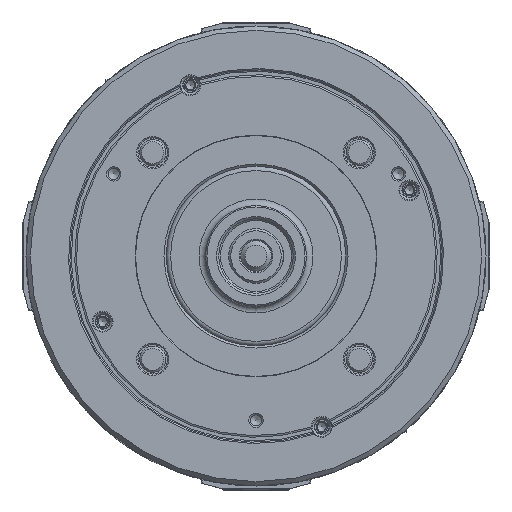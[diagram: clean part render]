
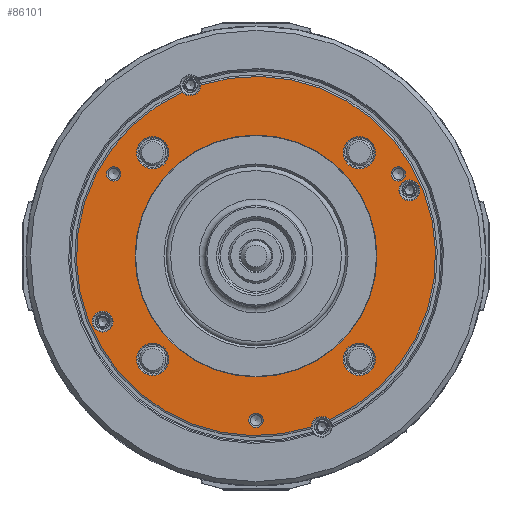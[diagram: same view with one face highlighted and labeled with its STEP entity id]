
A CAD part, left-side view. The second image highlights one B-rep face of the part: STEP entity #86101.
In plain terms, the highlighted planar face has unit normal (-1, 0, 0).
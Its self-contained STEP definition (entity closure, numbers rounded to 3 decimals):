
#6 = AXIS2_PLACEMENT_3D ( 'NONE', #60910, #61997, #4913 ) ;
#149 = DIRECTION ( 'NONE',  ( 0., 1., 0. ) ) ;
#447 = DIRECTION ( 'NONE',  ( -1., 0., 0. ) ) ;
#630 = EDGE_LOOP ( 'NONE', ( #106137 ) ) ;
#1501 = CARTESIAN_POINT ( 'NONE',  ( -86., 64.952, 37.5 ) ) ;
#1884 = ORIENTED_EDGE ( 'NONE', *, *, #100701, .F. ) ;
#2104 = AXIS2_PLACEMENT_3D ( 'NONE', #52664, #76955, #44084 ) ;
#2168 = EDGE_CURVE ( 'NONE', #79800, #79800, #98469, .T. ) ;
#2859 = ORIENTED_EDGE ( 'NONE', *, *, #95914, .T. ) ;
#3414 = DIRECTION ( 'NONE',  ( 1., 0., 0. ) ) ;
#3733 = AXIS2_PLACEMENT_3D ( 'NONE', #1501, #447, #100643 ) ;
#4829 = CARTESIAN_POINT ( 'NONE',  ( -86., -30., -78. ) ) ;
#4869 = ORIENTED_EDGE ( 'NONE', *, *, #70711, .F. ) ;
#4902 = AXIS2_PLACEMENT_3D ( 'NONE', #75504, #35056, #67922 ) ;
#4913 = DIRECTION ( 'NONE',  ( 0., 1., 0. ) ) ;
#4949 = EDGE_LOOP ( 'NONE', ( #1884 ) ) ;
#4989 = ORIENTED_EDGE ( 'NONE', *, *, #77270, .F. ) ;
#6234 = VERTEX_POINT ( 'NONE', #96776 ) ;
#7276 = CIRCLE ( 'NONE', #2104, 82. ) ;
#8890 = VERTEX_POINT ( 'NONE', #51397 ) ;
#10082 = DIRECTION ( 'NONE',  ( 1., 0., 0. ) ) ;
#10498 = VERTEX_POINT ( 'NONE', #33619 ) ;
#11684 = VERTEX_POINT ( 'NONE', #94637 ) ;
#11702 = CARTESIAN_POINT ( 'NONE',  ( -86., -25.25, -78.016 ) ) ;
#12901 = DIRECTION ( 'NONE',  ( 1., 0., 0. ) ) ;
#14452 = CARTESIAN_POINT ( 'NONE',  ( -86., 55.2, 0. ) ) ;
#15058 = ORIENTED_EDGE ( 'NONE', *, *, #86532, .T. ) ;
#15432 = ORIENTED_EDGE ( 'NONE', *, *, #44269, .F. ) ;
#15587 = AXIS2_PLACEMENT_3D ( 'NONE', #36283, #69156, #102060 ) ;
#18514 = FACE_BOUND ( 'NONE', #71769, .T. ) ;
#20089 = FACE_BOUND ( 'NONE', #62076, .T. ) ;
#20927 = CARTESIAN_POINT ( 'NONE',  ( -86., -65.25, 30. ) ) ;
#21469 = VERTEX_POINT ( 'NONE', #14452 ) ;
#22392 = CARTESIAN_POINT ( 'NONE',  ( -86., -68.252, 37.5 ) ) ;
#22405 = CIRCLE ( 'NONE', #15587, 4.75 ) ;
#22754 = CIRCLE ( 'NONE', #60565, 3.3 ) ;
#24372 = DIRECTION ( 'NONE',  ( 1., 0., 0. ) ) ;
#24728 = EDGE_CURVE ( 'NONE', #71542, #71542, #22405, .T. ) ;
#26201 = DIRECTION ( 'NONE',  ( 0., 1., 0. ) ) ;
#26571 = CARTESIAN_POINT ( 'NONE',  ( -86., 0., -82. ) ) ;
#27632 = FACE_BOUND ( 'NONE', #630, .T. ) ;
#27768 = CIRCLE ( 'NONE', #67370, 55.2 ) ;
#28265 = DIRECTION ( 'NONE',  ( 0., -1., 0. ) ) ;
#28426 = EDGE_CURVE ( 'NONE', #21469, #21469, #27768, .T. ) ;
#28751 = CARTESIAN_POINT ( 'NONE',  ( -86., 25.25, 78.016 ) ) ;
#29870 = ORIENTED_EDGE ( 'NONE', *, *, #68219, .T. ) ;
#31561 = DIRECTION ( 'NONE',  ( 1., 0., 0. ) ) ;
#31647 = CARTESIAN_POINT ( 'NONE',  ( -86., 61.652, 37.5 ) ) ;
#32449 = CARTESIAN_POINT ( 'NONE',  ( -86., 0., 0. ) ) ;
#32583 = CARTESIAN_POINT ( 'NONE',  ( -86., 33.536, 74.829 ) ) ;
#33619 = CARTESIAN_POINT ( 'NONE',  ( -86., -39.814, -47.164 ) ) ;
#35056 = DIRECTION ( 'NONE',  ( 1., 0., 0. ) ) ;
#35120 = VERTEX_POINT ( 'NONE', #101898 ) ;
#35219 = CARTESIAN_POINT ( 'NONE',  ( -86., -3.3, -75. ) ) ;
#36283 = CARTESIAN_POINT ( 'NONE',  ( -86., -70., 30. ) ) ;
#36356 = DIRECTION ( 'NONE',  ( 1., 0., 0. ) ) ;
#38212 = EDGE_LOOP ( 'NONE', ( #15058 ) ) ;
#38254 = VERTEX_POINT ( 'NONE', #32583 ) ;
#39367 = CARTESIAN_POINT ( 'NONE',  ( -86., 54.514, 47.164 ) ) ;
#40418 = ORIENTED_EDGE ( 'NONE', *, *, #2168, .T. ) ;
#42703 = CIRCLE ( 'NONE', #4902, 4.75 ) ;
#44007 = EDGE_CURVE ( 'NONE', #59440, #35120, #75946, .T. ) ;
#44016 = AXIS2_PLACEMENT_3D ( 'NONE', #73065, #31561, #105957 ) ;
#44084 = DIRECTION ( 'NONE',  ( 0., 1., 0. ) ) ;
#44141 = DIRECTION ( 'NONE',  ( 0., 1., 0. ) ) ;
#44269 = EDGE_CURVE ( 'NONE', #73683, #73683, #94903, .T. ) ;
#44812 = CIRCLE ( 'NONE', #48265, 7.35 ) ;
#48265 = AXIS2_PLACEMENT_3D ( 'NONE', #74726, #10082, #26201 ) ;
#48404 = AXIS2_PLACEMENT_3D ( 'NONE', #4829, #12901, #44141 ) ;
#49163 = DIRECTION ( 'NONE',  ( 1., 0., 0. ) ) ;
#50800 = FACE_BOUND ( 'NONE', #56177, .T. ) ;
#50843 = VERTEX_POINT ( 'NONE', #35219 ) ;
#51397 = CARTESIAN_POINT ( 'NONE',  ( -86., 54.514, -47.164 ) ) ;
#51880 = FACE_BOUND ( 'NONE', #93129, .T. ) ;
#52664 = CARTESIAN_POINT ( 'NONE',  ( -86., 0., 0. ) ) ;
#53578 = DIRECTION ( 'NONE',  ( 0., 1., 0. ) ) ;
#54659 = DIRECTION ( 'NONE',  ( 0., 1., 0. ) ) ;
#56177 = EDGE_LOOP ( 'NONE', ( #73066 ) ) ;
#56237 = CARTESIAN_POINT ( 'NONE',  ( -86., 47.164, 47.164 ) ) ;
#57255 = DIRECTION ( 'NONE',  ( 0., 1., 0. ) ) ;
#59040 = CIRCLE ( 'NONE', #64221, 7.35 ) ;
#59440 = VERTEX_POINT ( 'NONE', #11702 ) ;
#59951 = VERTEX_POINT ( 'NONE', #28751 ) ;
#59974 = FACE_BOUND ( 'NONE', #77938, .T. ) ;
#60565 = AXIS2_PLACEMENT_3D ( 'NONE', #100542, #83277, #28265 ) ;
#60613 = CARTESIAN_POINT ( 'NONE',  ( -86., 0., 0. ) ) ;
#60910 = CARTESIAN_POINT ( 'NONE',  ( -86., 30., 78. ) ) ;
#61997 = DIRECTION ( 'NONE',  ( 1., 0., 0. ) ) ;
#62076 = EDGE_LOOP ( 'NONE', ( #82773 ) ) ;
#62431 = EDGE_CURVE ( 'NONE', #59440, #38254, #7276, .T. ) ;
#63475 = DIRECTION ( 'NONE',  ( -1., 0., 0. ) ) ;
#64221 = AXIS2_PLACEMENT_3D ( 'NONE', #73442, #49163, #57255 ) ;
#67370 = AXIS2_PLACEMENT_3D ( 'NONE', #60613, #36356, #53578 ) ;
#67922 = DIRECTION ( 'NONE',  ( 0., 1., 0. ) ) ;
#68150 = CIRCLE ( 'NONE', #92277, 3.3 ) ;
#68219 = EDGE_CURVE ( 'NONE', #59951, #38254, #92922, .T. ) ;
#68578 = FACE_BOUND ( 'NONE', #38212, .T. ) ;
#68863 = EDGE_CURVE ( 'NONE', #11684, #11684, #44812, .T. ) ;
#69108 = FACE_BOUND ( 'NONE', #90827, .T. ) ;
#69156 = DIRECTION ( 'NONE',  ( 1., 0., 0. ) ) ;
#70711 = EDGE_CURVE ( 'NONE', #103270, #103270, #22754, .T. ) ;
#71542 = VERTEX_POINT ( 'NONE', #20927 ) ;
#71769 = EDGE_LOOP ( 'NONE', ( #40418 ) ) ;
#73065 = CARTESIAN_POINT ( 'NONE',  ( -86., -47.164, -47.164 ) ) ;
#73066 = ORIENTED_EDGE ( 'NONE', *, *, #28426, .T. ) ;
#73442 = CARTESIAN_POINT ( 'NONE',  ( -86., 47.164, -47.164 ) ) ;
#73683 = VERTEX_POINT ( 'NONE', #31647 ) ;
#74726 = CARTESIAN_POINT ( 'NONE',  ( -86., -47.164, 47.164 ) ) ;
#75504 = CARTESIAN_POINT ( 'NONE',  ( -86., 70., -30. ) ) ;
#75631 = FACE_BOUND ( 'NONE', #90404, .T. ) ;
#75946 = CIRCLE ( 'NONE', #48404, 4.75 ) ;
#76955 = DIRECTION ( 'NONE',  ( 1., 0., 0. ) ) ;
#77270 = EDGE_CURVE ( 'NONE', #59951, #35120, #100823, .T. ) ;
#77743 = FACE_OUTER_BOUND ( 'NONE', #97187, .T. ) ;
#77938 = EDGE_LOOP ( 'NONE', ( #2859 ) ) ;
#79800 = VERTEX_POINT ( 'NONE', #39367 ) ;
#82773 = ORIENTED_EDGE ( 'NONE', *, *, #99927, .T. ) ;
#83277 = DIRECTION ( 'NONE',  ( -1., 0., 0. ) ) ;
#83567 = AXIS2_PLACEMENT_3D ( 'NONE', #32449, #24372, #149 ) ;
#84258 = FACE_BOUND ( 'NONE', #4949, .T. ) ;
#85630 = AXIS2_PLACEMENT_3D ( 'NONE', #26571, #3414, #92339 ) ;
#86101 = ADVANCED_FACE ( 'NONE', ( #68578, #27632, #84258, #51880, #69108, #18514, #59974, #20089, #75631, #77743, #50800 ), #101494, .F. ) ;
#86466 = AXIS2_PLACEMENT_3D ( 'NONE', #56237, #87571, #54659 ) ;
#86532 = EDGE_CURVE ( 'NONE', #6234, #6234, #42703, .T. ) ;
#87571 = DIRECTION ( 'NONE',  ( 1., 0., 0. ) ) ;
#90404 = EDGE_LOOP ( 'NONE', ( #94179 ) ) ;
#90827 = EDGE_LOOP ( 'NONE', ( #4869 ) ) ;
#92277 = AXIS2_PLACEMENT_3D ( 'NONE', #104466, #63475, #96392 ) ;
#92339 = DIRECTION ( 'NONE',  ( 0., 1., 0. ) ) ;
#92922 = CIRCLE ( 'NONE', #6, 4.75 ) ;
#93129 = EDGE_LOOP ( 'NONE', ( #15432 ) ) ;
#93883 = CIRCLE ( 'NONE', #44016, 7.35 ) ;
#94179 = ORIENTED_EDGE ( 'NONE', *, *, #68863, .T. ) ;
#94637 = CARTESIAN_POINT ( 'NONE',  ( -86., -39.814, 47.164 ) ) ;
#94903 = CIRCLE ( 'NONE', #3733, 3.3 ) ;
#95914 = EDGE_CURVE ( 'NONE', #8890, #8890, #59040, .T. ) ;
#96392 = DIRECTION ( 'NONE',  ( 0., -1., 0. ) ) ;
#96776 = CARTESIAN_POINT ( 'NONE',  ( -86., 74.75, -30. ) ) ;
#97187 = EDGE_LOOP ( 'NONE', ( #4989, #29870, #99027, #98169 ) ) ;
#98169 = ORIENTED_EDGE ( 'NONE', *, *, #44007, .T. ) ;
#98469 = CIRCLE ( 'NONE', #86466, 7.35 ) ;
#99027 = ORIENTED_EDGE ( 'NONE', *, *, #62431, .F. ) ;
#99927 = EDGE_CURVE ( 'NONE', #10498, #10498, #93883, .T. ) ;
#100542 = CARTESIAN_POINT ( 'NONE',  ( -86., -64.952, 37.5 ) ) ;
#100643 = DIRECTION ( 'NONE',  ( 0., -1., 0. ) ) ;
#100701 = EDGE_CURVE ( 'NONE', #50843, #50843, #68150, .T. ) ;
#100823 = CIRCLE ( 'NONE', #83567, 82. ) ;
#101494 = PLANE ( 'NONE',  #85630 ) ;
#101898 = CARTESIAN_POINT ( 'NONE',  ( -86., -33.536, -74.829 ) ) ;
#102060 = DIRECTION ( 'NONE',  ( 0., 1., 0. ) ) ;
#103270 = VERTEX_POINT ( 'NONE', #22392 ) ;
#104466 = CARTESIAN_POINT ( 'NONE',  ( -86., 0., -75. ) ) ;
#105957 = DIRECTION ( 'NONE',  ( 0., 1., 0. ) ) ;
#106137 = ORIENTED_EDGE ( 'NONE', *, *, #24728, .T. ) ;
